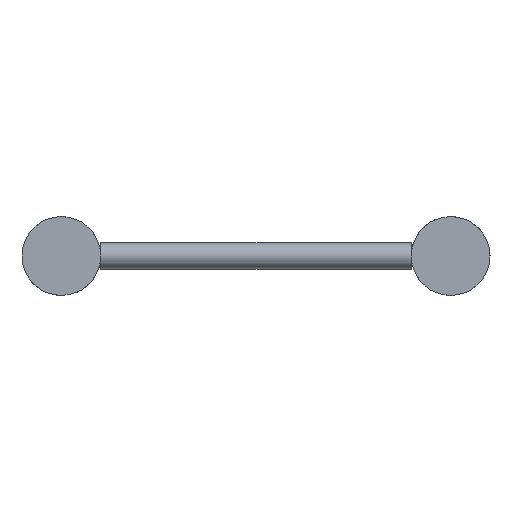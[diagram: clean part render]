
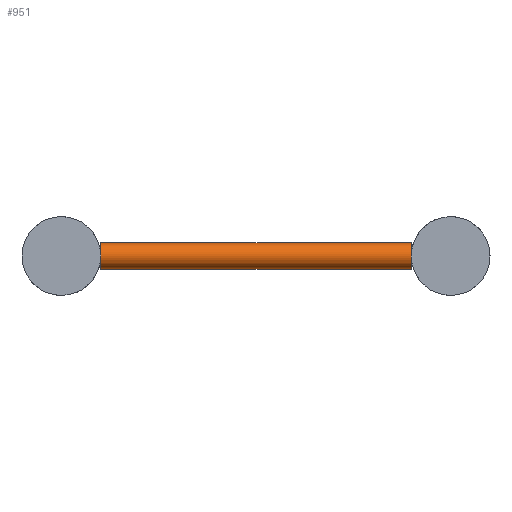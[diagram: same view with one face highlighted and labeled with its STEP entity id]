
A CAD part, left-side view. The second image highlights one B-rep face of the part: STEP entity #951.
In plain terms, the highlighted cylindrical face has radius 8 mm (diameter 16 mm), a full revolution.
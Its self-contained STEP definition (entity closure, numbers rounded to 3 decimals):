
#157=FACE_BOUND('',#313,.T.);
#236=FACE_OUTER_BOUND('',#312,.T.);
#312=EDGE_LOOP('',(#705,#706));
#313=EDGE_LOOP('',(#707,#708));
#397=CIRCLE('',#1046,8.);
#398=CIRCLE('',#1048,8.);
#399=CIRCLE('',#1050,8.);
#400=CIRCLE('',#1052,8.);
#465=VERTEX_POINT('',#1579);
#466=VERTEX_POINT('',#1580);
#467=VERTEX_POINT('',#1584);
#468=VERTEX_POINT('',#1585);
#568=EDGE_CURVE('',#466,#465,#397,.T.);
#570=EDGE_CURVE('',#468,#467,#398,.T.);
#571=EDGE_CURVE('',#465,#466,#399,.T.);
#572=EDGE_CURVE('',#467,#468,#400,.T.);
#705=ORIENTED_EDGE('',*,*,#571,.T.);
#706=ORIENTED_EDGE('',*,*,#568,.T.);
#707=ORIENTED_EDGE('',*,*,#572,.T.);
#708=ORIENTED_EDGE('',*,*,#570,.T.);
#835=CYLINDRICAL_SURFACE('',#1051,8.);
#951=ADVANCED_FACE('',(#236,#157),#835,.T.);
#1046=AXIS2_PLACEMENT_3D('',#1582,#1244,#1245);
#1048=AXIS2_PLACEMENT_3D('',#1587,#1249,#1250);
#1050=AXIS2_PLACEMENT_3D('',#1589,#1253,#1254);
#1051=AXIS2_PLACEMENT_3D('',#1590,#1255,#1256);
#1052=AXIS2_PLACEMENT_3D('',#1591,#1257,#1258);
#1244=DIRECTION('center_axis',(0.,1.,0.));
#1245=DIRECTION('ref_axis',(-1.,0.,0.));
#1249=DIRECTION('center_axis',(0.,-1.,0.));
#1250=DIRECTION('ref_axis',(-1.,0.,0.));
#1253=DIRECTION('center_axis',(0.,1.,0.));
#1254=DIRECTION('ref_axis',(-1.,0.,0.));
#1255=DIRECTION('center_axis',(0.,1.,0.));
#1256=DIRECTION('ref_axis',(-1.,0.,0.));
#1257=DIRECTION('center_axis',(0.,-1.,0.));
#1258=DIRECTION('ref_axis',(-1.,0.,0.));
#1579=CARTESIAN_POINT('',(68.,24.15,0.));
#1580=CARTESIAN_POINT('',(52.,24.15,0.));
#1582=CARTESIAN_POINT('Origin',(60.,24.15,0.));
#1584=CARTESIAN_POINT('',(68.,214.85,0.));
#1585=CARTESIAN_POINT('',(52.,214.85,0.));
#1587=CARTESIAN_POINT('Origin',(60.,214.85,0.));
#1589=CARTESIAN_POINT('Origin',(60.,24.15,0.));
#1590=CARTESIAN_POINT('Origin',(60.,119.5,0.));
#1591=CARTESIAN_POINT('Origin',(60.,214.85,0.));
